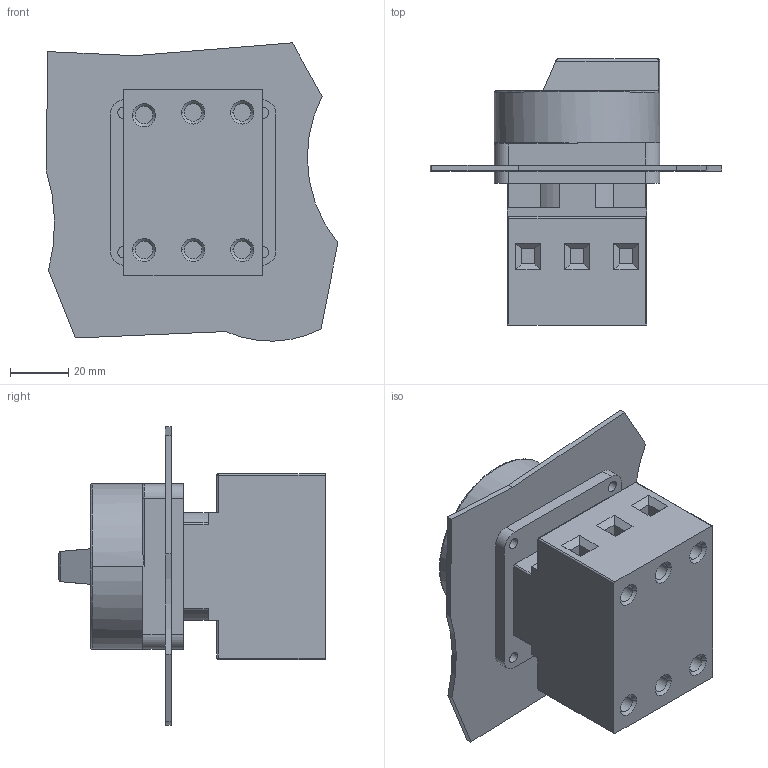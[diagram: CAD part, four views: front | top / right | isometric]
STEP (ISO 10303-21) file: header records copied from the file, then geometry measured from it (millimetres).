
FILE_DESCRIPTION (( 'STEP AP203' ), '1' );
FILE_NAME ('LTS20_25_32_40 EH4 A3.STEP', '2014-05-13T11:37:48', ( '' ), ( '' ), 'SwSTEP 2.0', 'SolidWorks 2014', '' );
FILE_SCHEMA (( 'CONFIG_CONTROL_DESIGN' ));
Length unit declared in the file: millimetre
Products named in the file (1): LTS20_25_32_40 EH4 A3
Bounding box: 100.42 x 91.7 x 102.66 mm (x, y, z)
Volume: 212209.8 mm3; surface area: 46507.5 mm2
Topology: 1 solids, 2 shells, 206 faces, 497 edges, 312 vertices
Faces by surface type: plane 122, cylinder 60, bspline 12, cone 12
Entity records: 6451 total; most frequent: CARTESIAN_POINT 1588, DIRECTION 995, ORIENTED_EDGE 990, EDGE_CURVE 495, AXIS2_PLACEMENT_3D 334, LINE 327, VECTOR 327, VERTEX_POINT 312
